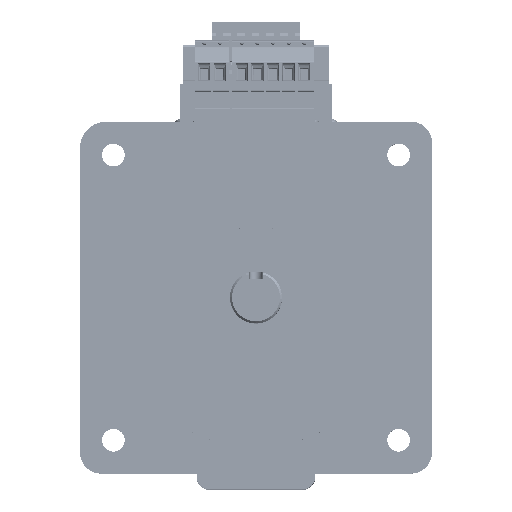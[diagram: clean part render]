
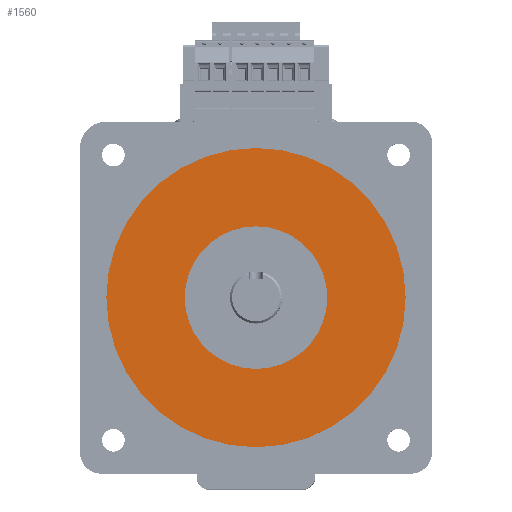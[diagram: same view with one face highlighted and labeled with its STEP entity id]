
A CAD part, top view. The second image highlights one B-rep face of the part: STEP entity #1560.
In plain terms, the highlighted planar face has unit normal (0, 0, 1).
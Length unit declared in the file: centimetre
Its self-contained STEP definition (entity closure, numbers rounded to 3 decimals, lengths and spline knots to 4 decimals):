
#1482=CARTESIAN_POINT('',(-3.6513,0.,0.15));
#1483=VERTEX_POINT('',#1482);
#1493=CARTESIAN_POINT('',(3.6513,0.,0.15));
#1494=VERTEX_POINT('',#1493);
#1495=CARTESIAN_POINT('',(0.,0.,0.15));
#1496=DIRECTION('',(0.,0.,-1.));
#1497=DIRECTION('',(1.,0.,0.));
#1498=AXIS2_PLACEMENT_3D('',#1495,#1496,#1497);
#1499=CIRCLE('',#1498,3.6513);
#1500=EDGE_CURVE('',#1483,#1494,#1499,.T.);
#1502=CARTESIAN_POINT('',(0.,0.,0.15));
#1503=DIRECTION('',(0.,0.,-1.));
#1504=DIRECTION('',(1.,0.,0.));
#1505=AXIS2_PLACEMENT_3D('',#1502,#1503,#1504);
#1506=CIRCLE('',#1505,3.6513);
#1507=EDGE_CURVE('',#1494,#1483,#1506,.T.);
#1517=CARTESIAN_POINT('',(-1.7399,0.,0.15));
#1518=VERTEX_POINT('',#1517);
#1525=CARTESIAN_POINT('',(1.7399,0.,0.15));
#1526=VERTEX_POINT('',#1525);
#1527=CARTESIAN_POINT('',(0.,0.,0.15));
#1528=DIRECTION('',(0.,0.,1.));
#1529=DIRECTION('',(1.,0.,-0.));
#1530=AXIS2_PLACEMENT_3D('',#1527,#1528,#1529);
#1531=CIRCLE('',#1530,1.7399);
#1532=EDGE_CURVE('',#1518,#1526,#1531,.T.);
#1534=CARTESIAN_POINT('',(0.,0.,0.15));
#1535=DIRECTION('',(0.,0.,1.));
#1536=DIRECTION('',(1.,0.,-0.));
#1537=AXIS2_PLACEMENT_3D('',#1534,#1535,#1536);
#1538=CIRCLE('',#1537,1.7399);
#1539=EDGE_CURVE('',#1526,#1518,#1538,.T.);
#1547=CARTESIAN_POINT('',(0.,0.,0.15));
#1548=DIRECTION('',(0.,0.,1.));
#1549=DIRECTION('',(1.,0.,0.));
#1550=AXIS2_PLACEMENT_3D('',#1547,#1548,#1549);
#1551=PLANE('',#1550);
#1552=ORIENTED_EDGE('',*,*,#1532,.F.);
#1553=ORIENTED_EDGE('',*,*,#1539,.F.);
#1554=EDGE_LOOP('',(#1552,#1553));
#1555=FACE_BOUND('',#1554,.T.);
#1556=ORIENTED_EDGE('',*,*,#1500,.F.);
#1557=ORIENTED_EDGE('',*,*,#1507,.F.);
#1558=EDGE_LOOP('',(#1556,#1557));
#1559=FACE_BOUND('',#1558,.T.);
#1560=ADVANCED_FACE('',(#1555,#1559),#1551,.T.);
